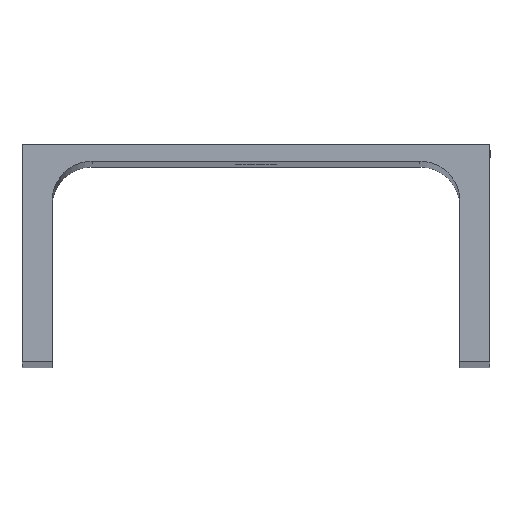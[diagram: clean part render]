
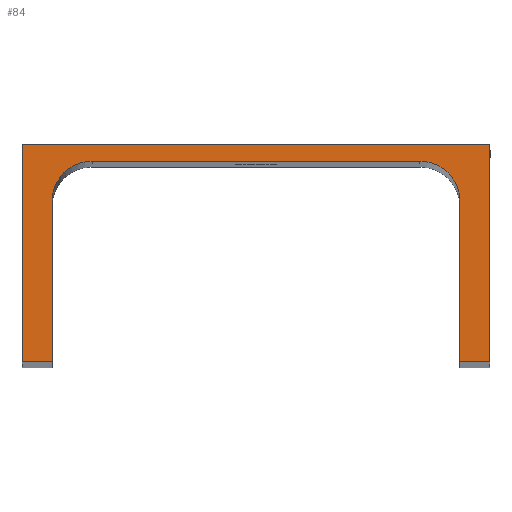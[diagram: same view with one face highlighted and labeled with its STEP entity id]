
A CAD part, top view. The second image highlights one B-rep face of the part: STEP entity #84.
In plain terms, the highlighted planar face has unit normal (0, 0, 1).
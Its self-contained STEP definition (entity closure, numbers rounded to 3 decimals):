
#59 = CARTESIAN_POINT ( 'NONE',  ( 61., 4128., 4670. ) ) ;
#84 = ADVANCED_FACE ( 'NONE', ( #1931 ), #2357, .T. ) ;
#105 = DIRECTION ( 'NONE',  ( 0., 1., 0. ) ) ;
#134 = CARTESIAN_POINT ( 'NONE',  ( 61., 4080., 4670. ) ) ;
#169 = LINE ( 'NONE', #134, #206 ) ;
#181 = VERTEX_POINT ( 'NONE', #427 ) ;
#206 = VECTOR ( 'NONE', #797, 1000. ) ;
#249 = DIRECTION ( 'NONE',  ( -1., 0., 0. ) ) ;
#402 = CIRCLE ( 'NONE', #2275, 12. ) ;
#403 = VERTEX_POINT ( 'NONE', #1074 ) ;
#423 = ORIENTED_EDGE ( 'NONE', *, *, #2608, .F. ) ;
#427 = CARTESIAN_POINT ( 'NONE',  ( 49., 4140., 4670. ) ) ;
#436 = DIRECTION ( 'NONE',  ( 0., -1., 0. ) ) ;
#444 = CARTESIAN_POINT ( 'NONE',  ( -49., 4128., 4670. ) ) ;
#455 = EDGE_CURVE ( 'NONE', #1362, #604, #2133, .T. ) ;
#465 = LINE ( 'NONE', #1332, #1902 ) ;
#503 = CARTESIAN_POINT ( 'NONE',  ( -61., 4128., 4670. ) ) ;
#504 = VECTOR ( 'NONE', #538, 1000. ) ;
#538 = DIRECTION ( 'NONE',  ( 0., 1., 0. ) ) ;
#545 = VECTOR ( 'NONE', #702, 1000. ) ;
#562 = VERTEX_POINT ( 'NONE', #503 ) ;
#604 = VERTEX_POINT ( 'NONE', #1186 ) ;
#611 = LINE ( 'NONE', #1077, #1444 ) ;
#666 = CARTESIAN_POINT ( 'NONE',  ( -70., 4080., 4670. ) ) ;
#674 = ORIENTED_EDGE ( 'NONE', *, *, #1574, .F. ) ;
#677 = EDGE_CURVE ( 'NONE', #604, #2064, #169, .T. ) ;
#689 = ORIENTED_EDGE ( 'NONE', *, *, #1826, .F. ) ;
#695 = CARTESIAN_POINT ( 'NONE',  ( 70., 4080., 4670. ) ) ;
#702 = DIRECTION ( 'NONE',  ( -1., 0., 0. ) ) ;
#797 = DIRECTION ( 'NONE',  ( -1., 0., 0. ) ) ;
#798 = EDGE_CURVE ( 'NONE', #881, #403, #2001, .T. ) ;
#807 = VERTEX_POINT ( 'NONE', #2394 ) ;
#856 = DIRECTION ( 'NONE',  ( 1., 0., 0. ) ) ;
#881 = VERTEX_POINT ( 'NONE', #2577 ) ;
#959 = EDGE_CURVE ( 'NONE', #1842, #881, #2580, .T. ) ;
#1006 = AXIS2_PLACEMENT_3D ( 'NONE', #1693, #1882, #2333 ) ;
#1074 = CARTESIAN_POINT ( 'NONE',  ( -70., 4145., 4670. ) ) ;
#1077 = CARTESIAN_POINT ( 'NONE',  ( 70., 4145., 4670. ) ) ;
#1092 = ORIENTED_EDGE ( 'NONE', *, *, #959, .F. ) ;
#1122 = LINE ( 'NONE', #1721, #545 ) ;
#1157 = ORIENTED_EDGE ( 'NONE', *, *, #677, .F. ) ;
#1186 = CARTESIAN_POINT ( 'NONE',  ( 70., 4080., 4670. ) ) ;
#1332 = CARTESIAN_POINT ( 'NONE',  ( -61., 4080., 4670. ) ) ;
#1334 = VECTOR ( 'NONE', #1555, 1000. ) ;
#1362 = VERTEX_POINT ( 'NONE', #2221 ) ;
#1369 = CIRCLE ( 'NONE', #1006, 12. ) ;
#1421 = EDGE_CURVE ( 'NONE', #2064, #1863, #2715, .T. ) ;
#1444 = VECTOR ( 'NONE', #856, 1000. ) ;
#1555 = DIRECTION ( 'NONE',  ( 0., -1., 0. ) ) ;
#1574 = EDGE_CURVE ( 'NONE', #1863, #181, #1369, .T. ) ;
#1672 = EDGE_LOOP ( 'NONE', ( #2745, #423, #2688, #1092, #2212, #2378, #689, #674, #1738, #1157 ) ) ;
#1693 = CARTESIAN_POINT ( 'NONE',  ( 49., 4128., 4670. ) ) ;
#1721 = CARTESIAN_POINT ( 'NONE',  ( -49., 4140., 4670. ) ) ;
#1738 = ORIENTED_EDGE ( 'NONE', *, *, #1421, .F. ) ;
#1765 = EDGE_CURVE ( 'NONE', #562, #1842, #465, .T. ) ;
#1826 = EDGE_CURVE ( 'NONE', #181, #807, #1122, .T. ) ;
#1842 = VERTEX_POINT ( 'NONE', #1967 ) ;
#1863 = VERTEX_POINT ( 'NONE', #59 ) ;
#1882 = DIRECTION ( 'NONE',  ( 0., 0., 1. ) ) ;
#1902 = VECTOR ( 'NONE', #436, 1000. ) ;
#1923 = DIRECTION ( 'NONE',  ( 1., 0., 0. ) ) ;
#1931 = FACE_OUTER_BOUND ( 'NONE', #1672, .T. ) ;
#1941 = VECTOR ( 'NONE', #249, 1000. ) ;
#1967 = CARTESIAN_POINT ( 'NONE',  ( -61., 4080., 4670. ) ) ;
#2001 = LINE ( 'NONE', #2017, #2582 ) ;
#2017 = CARTESIAN_POINT ( 'NONE',  ( -70., 4145., 4670. ) ) ;
#2064 = VERTEX_POINT ( 'NONE', #2330 ) ;
#2133 = LINE ( 'NONE', #695, #1334 ) ;
#2172 = DIRECTION ( 'NONE',  ( 0., 0., 1. ) ) ;
#2212 = ORIENTED_EDGE ( 'NONE', *, *, #1765, .F. ) ;
#2221 = CARTESIAN_POINT ( 'NONE',  ( 70., 4145., 4670. ) ) ;
#2275 = AXIS2_PLACEMENT_3D ( 'NONE', #2529, #2556, #1923 ) ;
#2330 = CARTESIAN_POINT ( 'NONE',  ( 61., 4080., 4670. ) ) ;
#2333 = DIRECTION ( 'NONE',  ( 1., 0., 0. ) ) ;
#2357 = PLANE ( 'NONE',  #2439 ) ;
#2378 = ORIENTED_EDGE ( 'NONE', *, *, #2537, .F. ) ;
#2394 = CARTESIAN_POINT ( 'NONE',  ( -49., 4140., 4670. ) ) ;
#2439 = AXIS2_PLACEMENT_3D ( 'NONE', #444, #2172, #2638 ) ;
#2466 = CARTESIAN_POINT ( 'NONE',  ( 61., 4128., 4670. ) ) ;
#2529 = CARTESIAN_POINT ( 'NONE',  ( -49., 4128., 4670. ) ) ;
#2537 = EDGE_CURVE ( 'NONE', #807, #562, #402, .T. ) ;
#2556 = DIRECTION ( 'NONE',  ( 0., 0., 1. ) ) ;
#2577 = CARTESIAN_POINT ( 'NONE',  ( -70., 4080., 4670. ) ) ;
#2580 = LINE ( 'NONE', #666, #1941 ) ;
#2582 = VECTOR ( 'NONE', #105, 1000. ) ;
#2608 = EDGE_CURVE ( 'NONE', #403, #1362, #611, .T. ) ;
#2638 = DIRECTION ( 'NONE',  ( 1., 0., 0. ) ) ;
#2688 = ORIENTED_EDGE ( 'NONE', *, *, #798, .F. ) ;
#2715 = LINE ( 'NONE', #2466, #504 ) ;
#2745 = ORIENTED_EDGE ( 'NONE', *, *, #455, .F. ) ;
